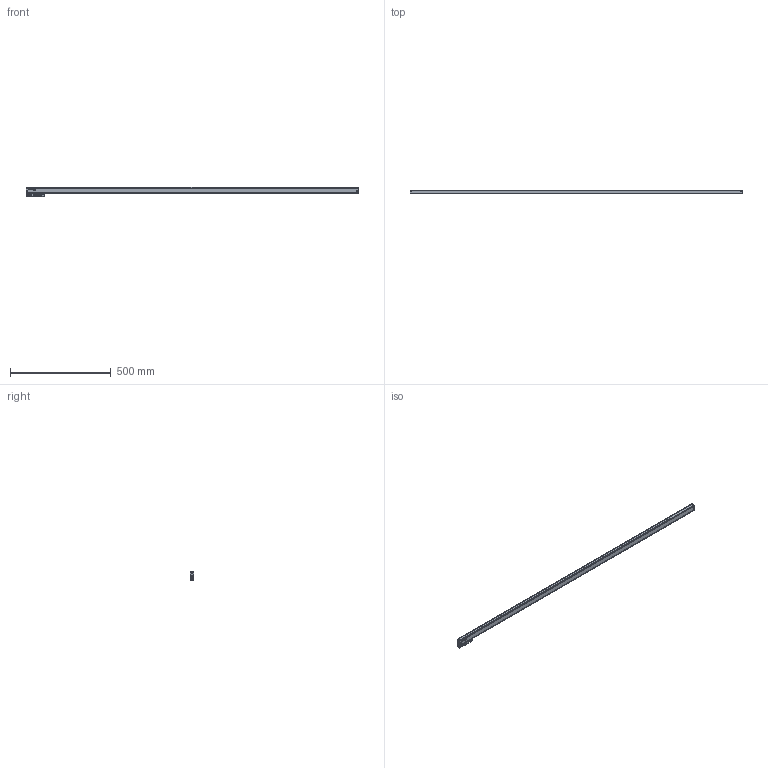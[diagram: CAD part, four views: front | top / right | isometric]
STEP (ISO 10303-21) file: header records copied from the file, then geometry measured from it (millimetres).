
FILE_DESCRIPTION(('Creo Elements/Direct Modeling STEP Export'),'2;1');
FILE_NAME('REGLA_SV3-1540.stp','2020-11-02T12:07:14',(''),(''),'Creo Elements/Direct Modeling STEP processor for AP214 (Solid Model)','Creo Elements/Direct Modeling 19.0G 27-Nov-2017 (C) Parametric Technology GmbH','');
FILE_SCHEMA(('AUTOMOTIVE_DESIGN { 1 0 10303 214 1 1 1 1 }'));
Length unit declared in the file: millimetre
Products named in the file (4): PERFIL_REGLA_SV3-1540; CABEZA_RANURADA_REGLA_S3
Assembly tree (2 placements, depth 2):
  PERFIL_REGLA_SV3-1540
    PERFIL_REGLA_SV3-1540
  CABEZA_RANURADA_REGLA_S3
    CABEZA_RANURADA_REGLA_S3
Bounding box: 1645 x 18.3 x 46.2 mm (x, y, z)
Volume: 906289.4 mm3; surface area: 214571.1 mm2
Topology: 2 solids, 25 shells, 1508 faces, 4919 edges, 3517 vertices
Faces by surface type: plane 988, cylinder 369, cone 134, bspline 9, torus 8
Entity records: 63844 total; most frequent: CARTESIAN_POINT 12641, ORIENTED_EDGE 9818, DIRECTION 7788, EDGE_CURVE 4907, VECTOR 3690, LINE 3690, VERTEX_POINT 3517, AXIS2_PLACEMENT_3D 2049
